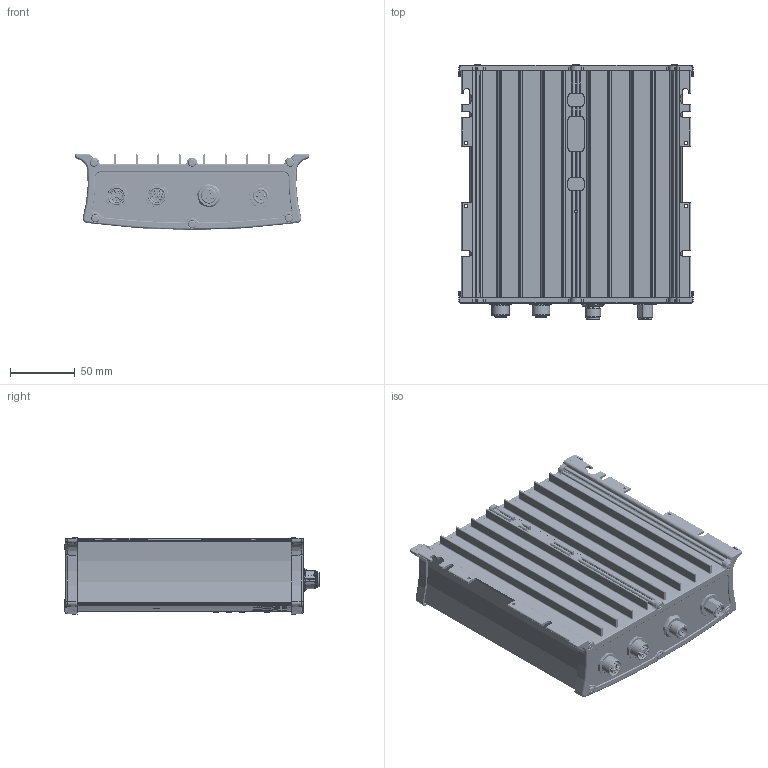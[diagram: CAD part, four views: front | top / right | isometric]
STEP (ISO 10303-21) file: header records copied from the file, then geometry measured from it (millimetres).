
FILE_DESCRIPTION (( 'STEP AP214' ), '1' );
FILE_NAME ('447.18.01.STEP', '2024-07-31T07:39:28', ( '' ), ( '' ), 'SwSTEP 2.0', 'SolidWorks 2024', '' );
FILE_SCHEMA (( 'AUTOMOTIVE_DESIGN' ));
Length unit declared in the file: millimetre
Products named in the file (1): 447.18.01
Bounding box: 180.63 x 195.55 x 58.73 mm (x, y, z)
Volume: 261658.9 mm3; surface area: 348744.3 mm2
Topology: 56 solids, 57 shells, 3438 faces, 9608 edges, 6663 vertices
Faces by surface type: cylinder 1242, plane 1231, torus 523, cone 247, bspline 173, sphere 22
Full cylindrical faces by diameter (mm): 0.56 x6, 1 x5, 1.5 x7, 1.6 x30, 1.8 x1, 1.85 x20, 2 x14, 2.17 x4, 2.2 x14, 2.23 x4, 2.3 x8, 2.6 x14, 2.7 x4, 3 x12, 3.6 x12, 5 x2, 6 x24, 8.3 x1, 8.35 x1, 8.75 x2, 10.3 x1, 10.5 x1, 10.6 x2, 10.65 x1, 10.917 x2, 11 x1, 12 x11, 12.15 x1, 12.2 x2, 13.3 x4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
Entity records: 210788 total; most frequent: CARTESIAN_POINT 88274, ORIENTED_EDGE 17946, DIRECTION 16665, EDGE_CURVE 8973, AXIS2_PLACEMENT_3D 6633, VERTEX_POINT 6447, EDGE_LOOP 4320, FACE_OUTER_BOUND 3768
